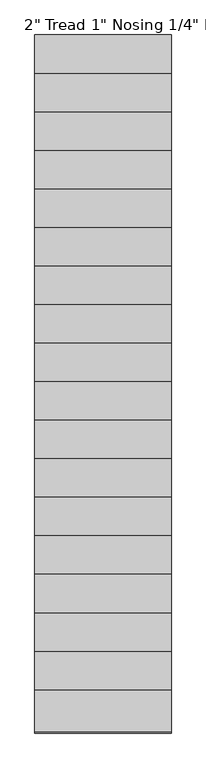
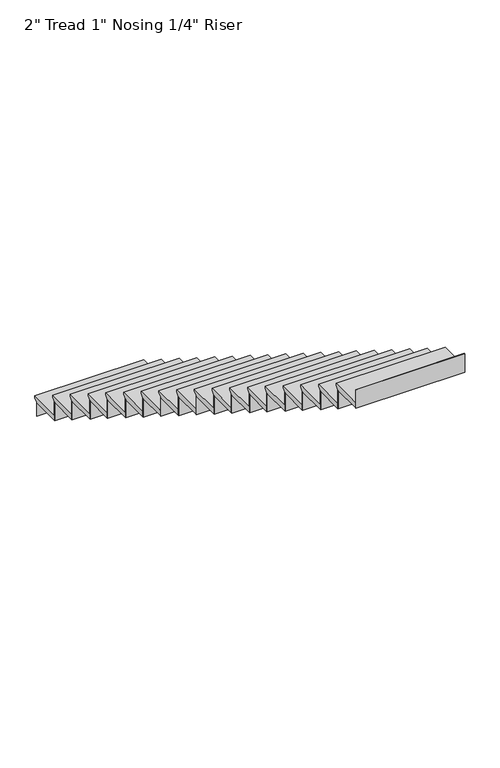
"""IFC4 building model written with IfcOpenShell, lengths in millimetres: stair flight geometry."""

from ifc_helpers import new_model, si_unit, frame, origin, place, context, project, spatial, polyline, outline, extrude, source, transform, mapped, element, save


def stair_flight_0e8ae0be(model_context):
    return source(origin(), model_context, "Body", "SweptSolid", [
        extrude(outline(polyline([(4359.4563085, -3176.3368421), (4664.2563085, -3176.3368421), (4664.2563085, -3195.3868421), (4638.8563085, -3220.7868421), (4638.8563085, -3227.1368421), (4359.4563085, -3227.1368421), (4359.4563085, -3176.3368421)])), frame((-2765.1571781, 0.0, 0.0), z_axis=(1.0, 0.0, 0.0), x_axis=(0.0, 1.0, 0.0)), (0.0, 0.0, 1.0), 990.6),
        extrude(outline(polyline([(-2765.1571781, 4632.5063085), (-2765.1571781, 4638.8563085), (-1774.5571781, 4638.8563085), (-1774.5571781, 4632.5063085), (-2765.1571781, 4632.5063085)])), frame((0.0, 0.0, -3352.8), z_axis=(0.0, 0.0, 1.0), x_axis=(1.0, 0.0, 0.0)), (0.0, 0.0, 1.0), 125.6631579),
        extrude(outline(polyline([(-2765.1571781, 4353.1063085), (-2765.1571781, 4359.4563085), (-1774.5571781, 4359.4563085), (-1774.5571781, 4353.1063085), (-2765.1571781, 4353.1063085)])), frame((0.0, 0.0, -3227.1368421), z_axis=(0.0, 0.0, 1.0), x_axis=(1.0, 0.0, 0.0)), (0.0, 0.0, 1.0), 176.4631579),
        extrude(outline(polyline([(4080.0563085, -2999.8736842), (4384.8563085, -2999.8736842), (4384.8563085, -3018.9236842), (4359.4563085, -3044.3236842), (4359.4563085, -3050.6736842), (4080.0563085, -3050.6736842), (4080.0563085, -2999.8736842)])), frame((-2765.1571781, 0.0, 0.0), z_axis=(1.0, 0.0, 0.0), x_axis=(0.0, 1.0, 0.0)), (0.0, 0.0, 1.0), 990.6),
        extrude(outline(polyline([(-2765.1571781, 4073.7063085), (-2765.1571781, 4080.0563085), (-1774.5571781, 4080.0563085), (-1774.5571781, 4073.7063085), (-2765.1571781, 4073.7063085)])), frame((0.0, 0.0, -3050.6736842), z_axis=(0.0, 0.0, 1.0), x_axis=(1.0, 0.0, 0.0)), (0.0, 0.0, 1.0), 176.4631579),
        extrude(outline(polyline([(3800.6563085, -2823.4105263), (4105.4563085, -2823.4105263), (4105.4563085, -2842.4605263), (4080.0563085, -2867.8605263), (4080.0563085, -2874.2105263), (3800.6563085, -2874.2105263), (3800.6563085, -2823.4105263)])), frame((-2765.1571781, 0.0, 0.0), z_axis=(1.0, 0.0, 0.0), x_axis=(0.0, 1.0, 0.0)), (0.0, 0.0, 1.0), 990.6),
        extrude(outline(polyline([(-2765.1571781, 3794.3063085), (-2765.1571781, 3800.6563085), (-1774.5571781, 3800.6563085), (-1774.5571781, 3794.3063085), (-2765.1571781, 3794.3063085)])), frame((0.0, 0.0, -2874.2105263), z_axis=(0.0, 0.0, 1.0), x_axis=(1.0, 0.0, 0.0)), (0.0, 0.0, 1.0), 176.4631579),
        extrude(outline(polyline([(3521.2563085, -2646.9473684), (3826.0563085, -2646.9473684), (3826.0563085, -2665.9973684), (3800.6563085, -2691.3973684), (3800.6563085, -2697.7473684), (3521.2563085, -2697.7473684), (3521.2563085, -2646.9473684)])), frame((-2765.1571781, 0.0, 0.0), z_axis=(1.0, 0.0, 0.0), x_axis=(0.0, 1.0, 0.0)), (0.0, 0.0, 1.0), 990.6),
        extrude(outline(polyline([(-2765.1571781, 3514.9063085), (-2765.1571781, 3521.2563085), (-1774.5571781, 3521.2563085), (-1774.5571781, 3514.9063085), (-2765.1571781, 3514.9063085)])), frame((0.0, 0.0, -2697.7473684), z_axis=(0.0, 0.0, 1.0), x_axis=(1.0, 0.0, 0.0)), (0.0, 0.0, 1.0), 176.4631579),
        extrude(outline(polyline([(3241.8563085, -2470.4842105), (3546.6563085, -2470.4842105), (3546.6563085, -2489.5342105), (3521.2563085, -2514.9342105), (3521.2563085, -2521.2842105), (3241.8563085, -2521.2842105), (3241.8563085, -2470.4842105)])), frame((-2765.1571781, 0.0, 0.0), z_axis=(1.0, 0.0, 0.0), x_axis=(0.0, 1.0, 0.0)), (0.0, 0.0, 1.0), 990.6),
        extrude(outline(polyline([(-2765.1571781, 3235.5063085), (-2765.1571781, 3241.8563085), (-1774.5571781, 3241.8563085), (-1774.5571781, 3235.5063085), (-2765.1571781, 3235.5063085)])), frame((0.0, 0.0, -2521.2842105), z_axis=(0.0, 0.0, 1.0), x_axis=(1.0, 0.0, 0.0)), (0.0, 0.0, 1.0), 176.4631579),
        extrude(outline(polyline([(2962.4563085, -2294.0210526), (3267.2563085, -2294.0210526), (3267.2563085, -2313.0710526), (3241.8563085, -2338.4710526), (3241.8563085, -2344.8210526), (2962.4563085, -2344.8210526), (2962.4563085, -2294.0210526)])), frame((-2765.1571781, 0.0, 0.0), z_axis=(1.0, 0.0, 0.0), x_axis=(0.0, 1.0, 0.0)), (0.0, 0.0, 1.0), 990.6),
        extrude(outline(polyline([(-2765.1571781, 2956.1063085), (-2765.1571781, 2962.4563085), (-1774.5571781, 2962.4563085), (-1774.5571781, 2956.1063085), (-2765.1571781, 2956.1063085)])), frame((0.0, 0.0, -2344.8210526), z_axis=(0.0, 0.0, 1.0), x_axis=(1.0, 0.0, 0.0)), (0.0, 0.0, 1.0), 176.4631579),
        extrude(outline(polyline([(2683.0563085, -2117.5578947), (2987.8563085, -2117.5578947), (2987.8563085, -2136.6078947), (2962.4563085, -2162.0078947), (2962.4563085, -2168.3578947), (2683.0563085, -2168.3578947), (2683.0563085, -2117.5578947)])), frame((-2765.1571781, 0.0, 0.0), z_axis=(1.0, 0.0, 0.0), x_axis=(0.0, 1.0, 0.0)), (0.0, 0.0, 1.0), 990.6),
        extrude(outline(polyline([(-2765.1571781, 2676.7063085), (-2765.1571781, 2683.0563085), (-1774.5571781, 2683.0563085), (-1774.5571781, 2676.7063085), (-2765.1571781, 2676.7063085)])), frame((0.0, 0.0, -2168.3578947), z_axis=(0.0, 0.0, 1.0), x_axis=(1.0, 0.0, 0.0)), (0.0, 0.0, 1.0), 176.4631579),
        extrude(outline(polyline([(2403.6563085, -1941.0947368), (2708.4563085, -1941.0947368), (2708.4563085, -1960.1447368), (2683.0563085, -1985.5447368), (2683.0563085, -1991.8947368), (2403.6563085, -1991.8947368), (2403.6563085, -1941.0947368)])), frame((-2765.1571781, 0.0, 0.0), z_axis=(1.0, 0.0, 0.0), x_axis=(0.0, 1.0, 0.0)), (0.0, 0.0, 1.0), 990.6),
        extrude(outline(polyline([(-2765.1571781, 2397.3063085), (-2765.1571781, 2403.6563085), (-1774.5571781, 2403.6563085), (-1774.5571781, 2397.3063085), (-2765.1571781, 2397.3063085)])), frame((0.0, 0.0, -1991.8947368), z_axis=(0.0, 0.0, 1.0), x_axis=(1.0, 0.0, 0.0)), (0.0, 0.0, 1.0), 176.4631579),
        extrude(outline(polyline([(2124.2563085, -1764.6315789), (2429.0563085, -1764.6315789), (2429.0563085, -1783.6815789), (2403.6563085, -1809.0815789), (2403.6563085, -1815.4315789), (2124.2563085, -1815.4315789), (2124.2563085, -1764.6315789)])), frame((-2765.1571781, 0.0, 0.0), z_axis=(1.0, 0.0, 0.0), x_axis=(0.0, 1.0, 0.0)), (0.0, 0.0, 1.0), 990.6),
        extrude(outline(polyline([(-2765.1571781, 2117.9063085), (-2765.1571781, 2124.2563085), (-1774.5571781, 2124.2563085), (-1774.5571781, 2117.9063085), (-2765.1571781, 2117.9063085)])), frame((0.0, 0.0, -1815.4315789), z_axis=(0.0, 0.0, 1.0), x_axis=(1.0, 0.0, 0.0)), (0.0, 0.0, 1.0), 176.4631579),
        extrude(outline(polyline([(1844.8563085, -1588.1684211), (2149.6563085, -1588.1684211), (2149.6563085, -1607.2184211), (2124.2563085, -1632.6184211), (2124.2563085, -1638.9684211), (1844.8563085, -1638.9684211), (1844.8563085, -1588.1684211)])), frame((-2765.1571781, 0.0, 0.0), z_axis=(1.0, 0.0, 0.0), x_axis=(0.0, 1.0, 0.0)), (0.0, 0.0, 1.0), 990.6),
        extrude(outline(polyline([(-2765.1571781, 1838.5063085), (-2765.1571781, 1844.8563085), (-1774.5571781, 1844.8563085), (-1774.5571781, 1838.5063085), (-2765.1571781, 1838.5063085)])), frame((0.0, 0.0, -1638.9684211), z_axis=(0.0, 0.0, 1.0), x_axis=(1.0, 0.0, 0.0)), (0.0, 0.0, 1.0), 176.4631579),
        extrude(outline(polyline([(1565.4563085, -1411.7052632), (1870.2563085, -1411.7052632), (1870.2563085, -1430.7552632), (1844.8563085, -1456.1552632), (1844.8563085, -1462.5052632), (1565.4563085, -1462.5052632), (1565.4563085, -1411.7052632)])), frame((-2765.1571781, 0.0, 0.0), z_axis=(1.0, 0.0, 0.0), x_axis=(0.0, 1.0, 0.0)), (0.0, 0.0, 1.0), 990.6),
        extrude(outline(polyline([(-2765.1571781, 1559.1063085), (-2765.1571781, 1565.4563085), (-1774.5571781, 1565.4563085), (-1774.5571781, 1559.1063085), (-2765.1571781, 1559.1063085)])), frame((0.0, 0.0, -1462.5052632), z_axis=(0.0, 0.0, 1.0), x_axis=(1.0, 0.0, 0.0)), (0.0, 0.0, 1.0), 176.4631579),
        extrude(outline(polyline([(1286.0563085, -1235.2421053), (1590.8563085, -1235.2421053), (1590.8563085, -1254.2921053), (1565.4563085, -1279.6921053), (1565.4563085, -1286.0421053), (1286.0563085, -1286.0421053), (1286.0563085, -1235.2421053)])), frame((-2765.1571781, 0.0, 0.0), z_axis=(1.0, 0.0, 0.0), x_axis=(0.0, 1.0, 0.0)), (0.0, 0.0, 1.0), 990.6),
        extrude(outline(polyline([(-2765.1571781, 1279.7063085), (-2765.1571781, 1286.0563085), (-1774.5571781, 1286.0563085), (-1774.5571781, 1279.7063085), (-2765.1571781, 1279.7063085)])), frame((0.0, 0.0, -1286.0421053), z_axis=(0.0, 0.0, 1.0), x_axis=(1.0, 0.0, 0.0)), (0.0, 0.0, 1.0), 176.4631579),
        extrude(outline(polyline([(1006.6563085, -1058.7789474), (1311.4563085, -1058.7789474), (1311.4563085, -1077.8289474), (1286.0563085, -1103.2289474), (1286.0563085, -1109.5789474), (1006.6563085, -1109.5789474), (1006.6563085, -1058.7789474)])), frame((-2765.1571781, 0.0, 0.0), z_axis=(1.0, 0.0, 0.0), x_axis=(0.0, 1.0, 0.0)), (0.0, 0.0, 1.0), 990.6),
        extrude(outline(polyline([(-2765.1571781, 1000.3063085), (-2765.1571781, 1006.6563085), (-1774.5571781, 1006.6563085), (-1774.5571781, 1000.3063085), (-2765.1571781, 1000.3063085)])), frame((0.0, 0.0, -1109.5789474), z_axis=(0.0, 0.0, 1.0), x_axis=(1.0, 0.0, 0.0)), (0.0, 0.0, 1.0), 176.4631579),
        extrude(outline(polyline([(727.2563085, -882.3157895), (1032.0563085, -882.3157895), (1032.0563085, -901.3657895), (1006.6563085, -926.7657895), (1006.6563085, -933.1157895), (727.2563085, -933.1157895), (727.2563085, -882.3157895)])), frame((-2765.1571781, 0.0, 0.0), z_axis=(1.0, 0.0, 0.0), x_axis=(0.0, 1.0, 0.0)), (0.0, 0.0, 1.0), 990.6),
        extrude(outline(polyline([(-2765.1571781, 720.9063085), (-2765.1571781, 727.2563085), (-1774.5571781, 727.2563085), (-1774.5571781, 720.9063085), (-2765.1571781, 720.9063085)])), frame((0.0, 0.0, -933.1157895), z_axis=(0.0, 0.0, 1.0), x_axis=(1.0, 0.0, 0.0)), (0.0, 0.0, 1.0), 176.4631579),
        extrude(outline(polyline([(447.8563085, -705.8526316), (752.6563085, -705.8526316), (752.6563085, -724.9026316), (727.2563085, -750.3026316), (727.2563085, -756.6526316), (447.8563085, -756.6526316), (447.8563085, -705.8526316)])), frame((-2765.1571781, 0.0, 0.0), z_axis=(1.0, 0.0, 0.0), x_axis=(0.0, 1.0, 0.0)), (0.0, 0.0, 1.0), 990.6),
        extrude(outline(polyline([(-2765.1571781, 441.5063085), (-2765.1571781, 447.8563085), (-1774.5571781, 447.8563085), (-1774.5571781, 441.5063085), (-2765.1571781, 441.5063085)])), frame((0.0, 0.0, -756.6526316), z_axis=(0.0, 0.0, 1.0), x_axis=(1.0, 0.0, 0.0)), (0.0, 0.0, 1.0), 176.4631579),
        extrude(outline(polyline([(168.4563085, -529.3894737), (473.2563085, -529.3894737), (473.2563085, -548.4394737), (447.8563085, -573.8394737), (447.8563085, -580.1894737), (168.4563085, -580.1894737), (168.4563085, -529.3894737)])), frame((-2765.1571781, 0.0, 0.0), z_axis=(1.0, 0.0, 0.0), x_axis=(0.0, 1.0, 0.0)), (0.0, 0.0, 1.0), 990.6),
        extrude(outline(polyline([(-2765.1571781, 162.1063085), (-2765.1571781, 168.4563085), (-1774.5571781, 168.4563085), (-1774.5571781, 162.1063085), (-2765.1571781, 162.1063085)])), frame((0.0, 0.0, -580.1894737), z_axis=(0.0, 0.0, 1.0), x_axis=(1.0, 0.0, 0.0)), (0.0, 0.0, 1.0), 176.4631579),
        extrude(outline(polyline([(-110.9436915, -352.9263158), (193.8563085, -352.9263158), (193.8563085, -371.9763158), (168.4563085, -397.3763158), (168.4563085, -403.7263158), (-110.9436915, -403.7263158), (-110.9436915, -352.9263158)])), frame((-2765.1571781, 0.0, 0.0), z_axis=(1.0, 0.0, 0.0), x_axis=(0.0, 1.0, 0.0)), (0.0, 0.0, 1.0), 990.6),
        extrude(outline(polyline([(-2765.1571781, -117.2936915), (-2765.1571781, -110.9436915), (-1774.5571781, -110.9436915), (-1774.5571781, -117.2936915), (-2765.1571781, -117.2936915)])), frame((0.0, 0.0, -403.7263158), z_axis=(0.0, 0.0, 1.0), x_axis=(1.0, 0.0, 0.0)), (0.0, 0.0, 1.0), 176.4631579),
        extrude(outline(polyline([(-2765.1571781, -396.6936915), (-2765.1571781, -390.3436915), (-1774.5571781, -390.3436915), (-1774.5571781, -396.6936915), (-2765.1571781, -396.6936915)])), frame((0.0, 0.0, -227.2631579), z_axis=(0.0, 0.0, 1.0), x_axis=(1.0, 0.0, 0.0)), (0.0, 0.0, 1.0), 176.4631579),
        extrude(outline(polyline([(-390.3436915, -176.4631579), (-85.5436915, -176.4631579), (-85.5436915, -195.5131579), (-110.9436915, -220.9131579), (-110.9436915, -227.2631579), (-390.3436915, -227.2631579), (-390.3436915, -176.4631579)])), frame((-2765.1571781, 0.0, 0.0), z_axis=(1.0, 0.0, 0.0), x_axis=(0.0, 1.0, 0.0)), (0.0, 0.0, 1.0), 990.6),
    ])


if __name__ == "__main__":
    model = new_model("IFC4")
    model_context = context("Model", 3, world=origin())
    ifc_project = project(units=[si_unit("LENGTHUNIT", "METRE", prefix="MILLI")], contexts=[model_context])
    site = spatial("IfcSite", under=ifc_project)
    building = spatial("IfcBuilding", under=site)
    placement = place(None, origin())
    stair_flight_shape = stair_flight_0e8ae0be(model_context)
    element("IfcStairFlight", 1, ObjectType="2\" Tread 1\" Nosing 1/4\" Riser", at=placement, inside=building, context=model_context, shape_type="MappedRepresentation", body=[
        mapped(stair_flight_shape, transform((0.0, 0.0, 0.0), x_axis=(1.0, 0.0, 0.0), y_axis=(0.0, 1.0, 0.0), z_axis=(0.0, 0.0, 1.0))),
    ])
    save(model, "model.ifc")
